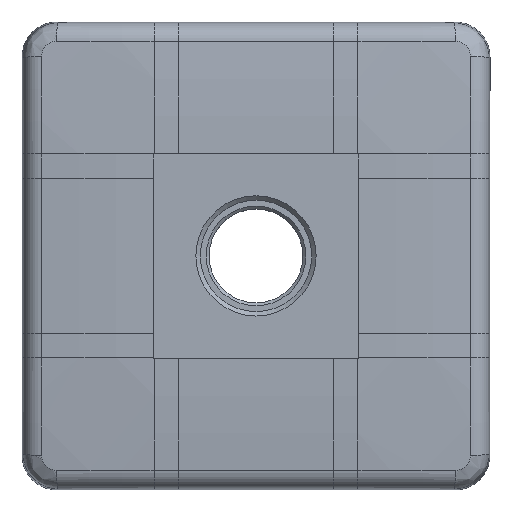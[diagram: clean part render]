
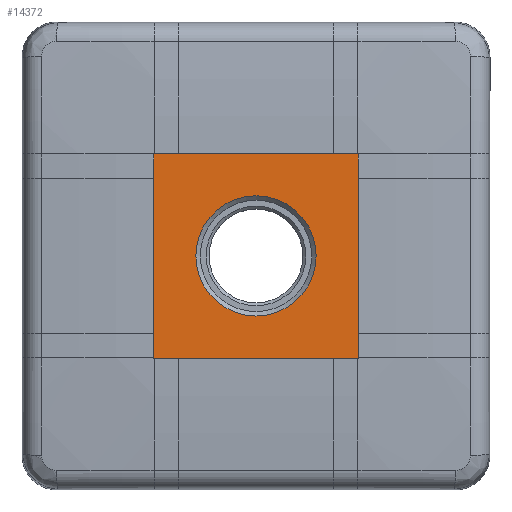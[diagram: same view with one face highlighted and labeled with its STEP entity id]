
A CAD part, top view. The second image highlights one B-rep face of the part: STEP entity #14372.
In plain terms, the highlighted planar face has unit normal (0, 0, 1).
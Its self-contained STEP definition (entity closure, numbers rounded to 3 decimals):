
#14222=CARTESIAN_POINT('',(-139.9,-39.9,10.0));
#14223=DIRECTION('',(0.0,0.0,-1.0));
#14224=DIRECTION('',(-1.0,0.0,0.0));
#14225=AXIS2_PLACEMENT_3D('',#14222,#14223,#14224);
#14226=PLANE('',#14225);
#14227=CARTESIAN_POINT('',(-82.54,-13.25,10.));
#14228=VERTEX_POINT('',#14227);
#14229=CARTESIAN_POINT('',(-82.54,13.25,10.));
#14230=VERTEX_POINT('',#14229);
#14231=CARTESIAN_POINT('',(-82.54,-13.25,10.));
#14232=DIRECTION('',(0.0,1.0,0.0));
#14233=VECTOR('',#14232,1.0);
#14234=LINE('',#14231,#14233);
#14235=EDGE_CURVE('',#14228,#14230,#14234,.T.);
#14236=ORIENTED_EDGE('',*,*,#14235,.T.);
#14237=CARTESIAN_POINT('',(-82.54,17.382,10.));
#14238=VERTEX_POINT('',#14237);
#14239=CARTESIAN_POINT('',(-82.54,17.382,10.));
#14240=DIRECTION('',(0.0,-1.0,0.0));
#14241=VECTOR('',#14240,1.0);
#14242=LINE('',#14239,#14241);
#14243=EDGE_CURVE('',#14238,#14230,#14242,.T.);
#14244=ORIENTED_EDGE('',*,*,#14243,.F.);
#14245=CARTESIAN_POINT('',(-82.618,17.46,10.));
#14246=VERTEX_POINT('',#14245);
#14247=CARTESIAN_POINT('',(-82.618,17.382,10.));
#14248=DIRECTION('',(0.0,0.0,-1.0));
#14249=DIRECTION('',(-1.0,0.0,0.0));
#14250=AXIS2_PLACEMENT_3D('',#14247,#14248,#14249);
#14251=CIRCLE('',#14250,0.077);
#14252=EDGE_CURVE('',#14246,#14238,#14251,.T.);
#14253=ORIENTED_EDGE('',*,*,#14252,.F.);
#14254=CARTESIAN_POINT('',(-86.75,17.46,10.));
#14255=VERTEX_POINT('',#14254);
#14256=CARTESIAN_POINT('',(-100.,17.46,10.));
#14257=DIRECTION('',(1.0,0.0,0.0));
#14258=VECTOR('',#14257,1.0);
#14259=LINE('',#14256,#14258);
#14260=EDGE_CURVE('',#14255,#14246,#14259,.T.);
#14261=ORIENTED_EDGE('',*,*,#14260,.F.);
#14262=CARTESIAN_POINT('',(-113.25,17.46,10.));
#14263=VERTEX_POINT('',#14262);
#14264=CARTESIAN_POINT('',(-100.,17.46,10.));
#14265=DIRECTION('',(1.0,0.0,0.0));
#14266=VECTOR('',#14265,1.0);
#14267=LINE('',#14264,#14266);
#14268=EDGE_CURVE('',#14263,#14255,#14267,.T.);
#14269=ORIENTED_EDGE('',*,*,#14268,.F.);
#14270=CARTESIAN_POINT('',(-117.382,17.46,10.));
#14271=VERTEX_POINT('',#14270);
#14272=CARTESIAN_POINT('',(-100.,17.46,10.));
#14273=DIRECTION('',(1.0,0.0,0.0));
#14274=VECTOR('',#14273,1.0);
#14275=LINE('',#14272,#14274);
#14276=EDGE_CURVE('',#14271,#14263,#14275,.T.);
#14277=ORIENTED_EDGE('',*,*,#14276,.F.);
#14278=CARTESIAN_POINT('',(-117.46,17.382,10.));
#14279=VERTEX_POINT('',#14278);
#14280=CARTESIAN_POINT('',(-117.382,17.382,10.));
#14281=DIRECTION('',(0.0,0.0,-1.0));
#14282=DIRECTION('',(-1.0,0.0,0.0));
#14283=AXIS2_PLACEMENT_3D('',#14280,#14281,#14282);
#14284=CIRCLE('',#14283,0.077);
#14285=EDGE_CURVE('',#14271,#14279,#14284,.F.);
#14286=ORIENTED_EDGE('',*,*,#14285,.T.);
#14287=CARTESIAN_POINT('',(-117.46,13.25,10.));
#14288=VERTEX_POINT('',#14287);
#14289=CARTESIAN_POINT('',(-117.46,17.382,10.));
#14290=DIRECTION('',(0.0,-1.0,0.0));
#14291=VECTOR('',#14290,1.0);
#14292=LINE('',#14289,#14291);
#14293=EDGE_CURVE('',#14279,#14288,#14292,.T.);
#14294=ORIENTED_EDGE('',*,*,#14293,.T.);
#14295=CARTESIAN_POINT('',(-117.46,-13.25,10.));
#14296=VERTEX_POINT('',#14295);
#14297=CARTESIAN_POINT('',(-117.46,-13.25,10.));
#14298=DIRECTION('',(0.0,1.0,0.0));
#14299=VECTOR('',#14298,1.0);
#14300=LINE('',#14297,#14299);
#14301=EDGE_CURVE('',#14296,#14288,#14300,.T.);
#14302=ORIENTED_EDGE('',*,*,#14301,.F.);
#14303=CARTESIAN_POINT('',(-117.46,-17.382,10.));
#14304=VERTEX_POINT('',#14303);
#14305=CARTESIAN_POINT('',(-117.46,-17.382,10.));
#14306=DIRECTION('',(0.0,1.0,0.0));
#14307=VECTOR('',#14306,1.0);
#14308=LINE('',#14305,#14307);
#14309=EDGE_CURVE('',#14304,#14296,#14308,.T.);
#14310=ORIENTED_EDGE('',*,*,#14309,.F.);
#14311=CARTESIAN_POINT('',(-117.382,-17.46,10.));
#14312=VERTEX_POINT('',#14311);
#14313=CARTESIAN_POINT('',(-117.382,-17.382,10.));
#14314=DIRECTION('',(0.0,0.0,-1.0));
#14315=DIRECTION('',(-1.0,0.0,0.0));
#14316=AXIS2_PLACEMENT_3D('',#14313,#14314,#14315);
#14317=CIRCLE('',#14316,0.077);
#14318=EDGE_CURVE('',#14312,#14304,#14317,.T.);
#14319=ORIENTED_EDGE('',*,*,#14318,.F.);
#14320=CARTESIAN_POINT('',(-113.25,-17.46,10.));
#14321=VERTEX_POINT('',#14320);
#14322=CARTESIAN_POINT('',(-100.,-17.46,10.));
#14323=DIRECTION('',(-1.0,0.0,0.0));
#14324=VECTOR('',#14323,1.0);
#14325=LINE('',#14322,#14324);
#14326=EDGE_CURVE('',#14312,#14321,#14325,.F.);
#14327=ORIENTED_EDGE('',*,*,#14326,.T.);
#14328=CARTESIAN_POINT('',(-86.75,-17.46,10.));
#14329=VERTEX_POINT('',#14328);
#14330=CARTESIAN_POINT('',(-100.,-17.46,10.));
#14331=DIRECTION('',(-1.0,0.0,0.0));
#14332=VECTOR('',#14331,1.0);
#14333=LINE('',#14330,#14332);
#14334=EDGE_CURVE('',#14321,#14329,#14333,.F.);
#14335=ORIENTED_EDGE('',*,*,#14334,.T.);
#14336=CARTESIAN_POINT('',(-82.618,-17.46,10.));
#14337=VERTEX_POINT('',#14336);
#14338=CARTESIAN_POINT('',(-100.,-17.46,10.));
#14339=DIRECTION('',(-1.0,0.0,0.0));
#14340=VECTOR('',#14339,1.0);
#14341=LINE('',#14338,#14340);
#14342=EDGE_CURVE('',#14329,#14337,#14341,.F.);
#14343=ORIENTED_EDGE('',*,*,#14342,.T.);
#14344=CARTESIAN_POINT('',(-82.54,-17.382,10.));
#14345=VERTEX_POINT('',#14344);
#14346=CARTESIAN_POINT('',(-82.618,-17.382,10.));
#14347=DIRECTION('',(0.0,0.0,-1.0));
#14348=DIRECTION('',(-1.0,0.0,0.0));
#14349=AXIS2_PLACEMENT_3D('',#14346,#14347,#14348);
#14350=CIRCLE('',#14349,0.077);
#14351=EDGE_CURVE('',#14337,#14345,#14350,.F.);
#14352=ORIENTED_EDGE('',*,*,#14351,.T.);
#14353=CARTESIAN_POINT('',(-82.54,-17.382,10.));
#14354=DIRECTION('',(0.0,1.0,0.0));
#14355=VECTOR('',#14354,1.0);
#14356=LINE('',#14353,#14355);
#14357=EDGE_CURVE('',#14345,#14228,#14356,.T.);
#14358=ORIENTED_EDGE('',*,*,#14357,.T.);
#14359=EDGE_LOOP('',(#14236,#14244,#14253,#14261,#14269,#14277,#14286,#14294,#14302,#14310,#14319,#14327,#14335,#14343,#14352,#14358));
#14360=FACE_OUTER_BOUND('',#14359,.T.);
#14361=CARTESIAN_POINT('',(-110.25,0.0,10.0));
#14362=VERTEX_POINT('',#14361);
#14363=CARTESIAN_POINT('',(-100.,0.0,10.0));
#14364=DIRECTION('',(0.0,0.0,-1.0));
#14365=DIRECTION('',(-1.0,0.0,0.0));
#14366=AXIS2_PLACEMENT_3D('',#14363,#14364,#14365);
#14367=CIRCLE('',#14366,10.25);
#14368=EDGE_CURVE('',#14362,#14362,#14367,.T.);
#14369=ORIENTED_EDGE('',*,*,#14368,.T.);
#14370=EDGE_LOOP('',(#14369));
#14371=FACE_BOUND('',#14370,.T.);
#14372=ADVANCED_FACE('',(#14360,#14371),#14226,.F.);
